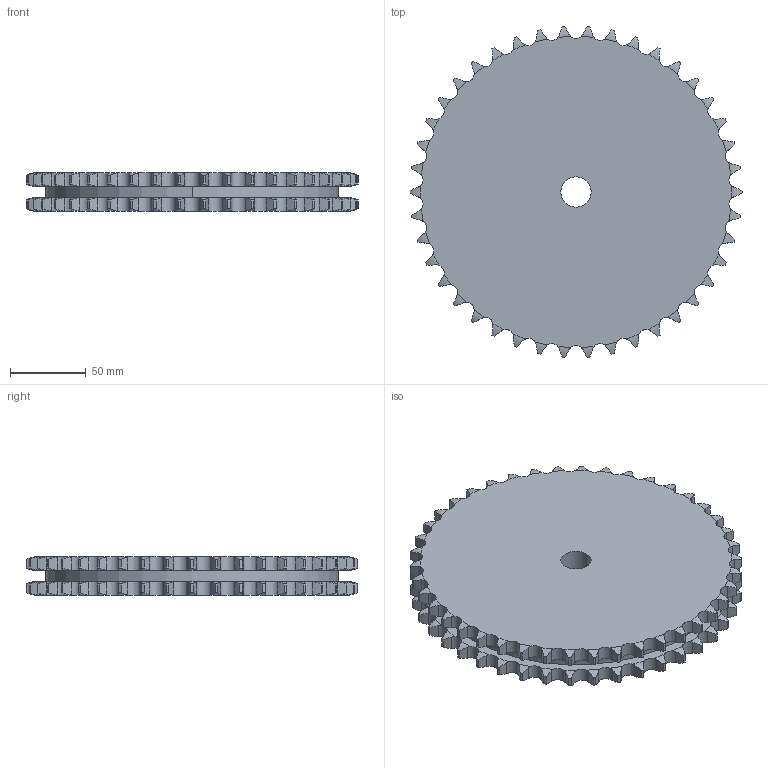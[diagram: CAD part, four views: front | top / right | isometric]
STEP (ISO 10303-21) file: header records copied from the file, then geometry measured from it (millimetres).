
FILE_DESCRIPTION((''),'2;1');
FILE_NAME('500-302-0042_PRT','2021-02-12T',('Brieden'),('Brieden'),'PRO/ENGINEER BY PARAMETRIC TECHNOLOGY CORPORATION, 2010160','PRO/ENGINEER BY PARAMETRIC TECHNOLOGY CORPORATION, 2010160','');
FILE_SCHEMA(('AUTOMOTIVE_DESIGN { 1 0 10303 214 1 1 1 1 }'));
Length unit declared in the file: millimetre
Products named in the file (1): 500-302-0042_PRT
Bounding box: 218.75 x 218.26 x 25.5 mm (x, y, z)
Volume: 823173.5 mm3; surface area: 100978.6 mm2
Topology: 1 solids, 1 shells, 512 faces, 1524 edges, 1016 vertices
Faces by surface type: cylinder 340, torus 168, plane 4
Entity records: 24928 total; most frequent: CARTESIAN_POINT 7361, ORIENTED_EDGE 3048, DIRECTION 2388, PRESENTATION_STYLE_ASSIGNMENT 1525, STYLED_ITEM 1525, CURVE_STYLE 1524, EDGE_CURVE 1524, AXIS2_PLACEMENT_3D 1024
